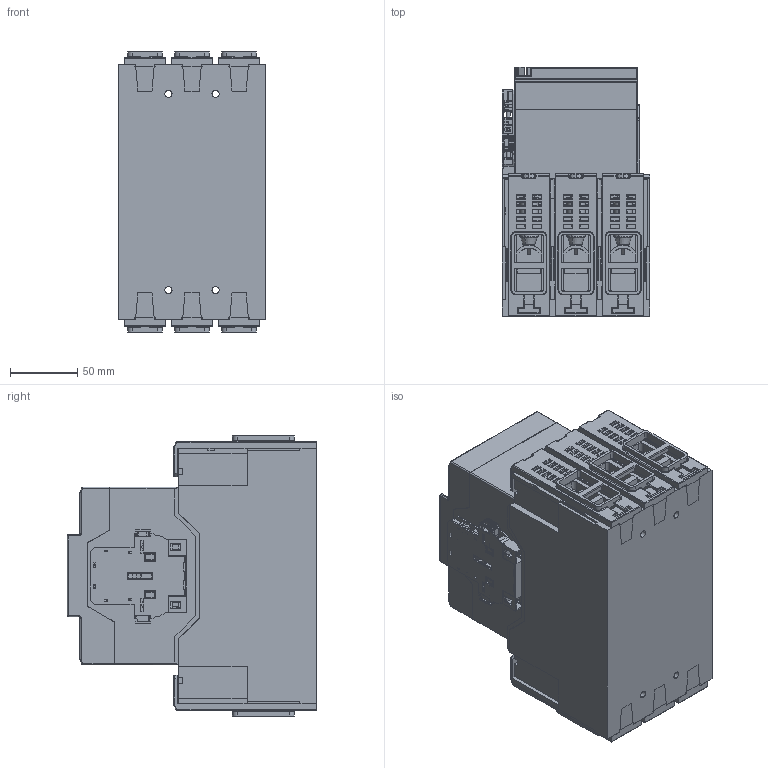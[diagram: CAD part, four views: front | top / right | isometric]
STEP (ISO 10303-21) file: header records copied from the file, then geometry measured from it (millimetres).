
FILE_DESCRIPTION (( 'STEP AP203' ), '1' );
FILE_NAME ('CWB225.22.STEP', '2023-09-26T17:53:06', ( '' ), ( '' ), 'SwSTEP 2.0', 'SolidWorks 2022', '' );
FILE_SCHEMA (( 'CONFIG_CONTROL_DESIGN' ));
Products named in the file (1): CWB225.22
Bounding box: 110 x 185.55 x 208.2 mm (x, y, z)
Volume: 2907752.3 mm3; surface area: 473732.5 mm2
Topology: 62 solids, 70 shells, 5252 faces, 14048 edges, 8929 vertices
Faces by surface type: plane 3428, cylinder 1160, bspline 227, cone 207, torus 154, sphere 76
Entity records: 172021 total; most frequent: CARTESIAN_POINT 43684, ORIENTED_EDGE 27936, DIRECTION 24539, EDGE_CURVE 13968, VECTOR 10785, LINE 10785, VERTEX_POINT 8929, AXIS2_PLACEMENT_3D 6877
